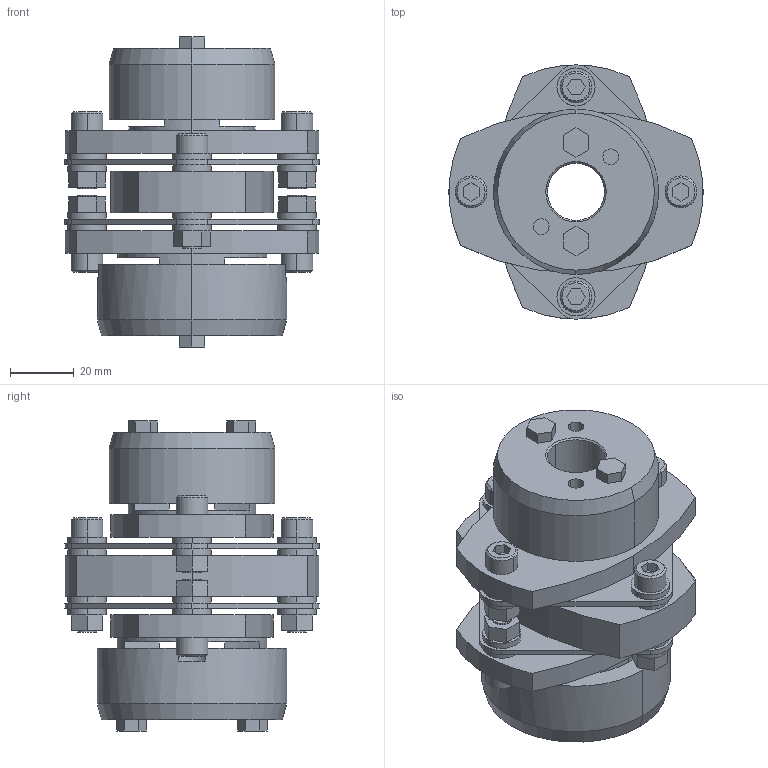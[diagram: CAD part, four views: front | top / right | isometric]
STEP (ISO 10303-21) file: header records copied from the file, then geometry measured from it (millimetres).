
FILE_DESCRIPTION((''),'2;1');
FILE_NAME('LCD-80T7-18×24.stp','2011-09-15T13:15:01',(''),(''),'AutoCAD STEP 2000i','AutoCAD 2000i',', , ');
FILE_SCHEMA(('CONFIG_CONTROL_DESIGN'));
Length unit declared in the file: millimetre
Products named in the file (8): LCD-80T7-17×24; 忣兜1; LC80T7-T024; LC80T7-T022; LC80T7-T019; LC80T7-T017-1; LC80T7-T017; LCD80-ITA
Assembly tree (7 placements, depth 2):
  LCD-80T7-17×24
    忣兜1
    LC80T7-T024
    LC80T7-T022
    LC80T7-T019
    LC80T7-T017-1
    LC80T7-T017
    LCD80-ITA
Bounding box: 80 x 79.95 x 97.5 mm (x, y, z)
Volume: 191429.7 mm3; surface area: 58272.3 mm2
Topology: 1 solids, 1 shells, 310 faces, 756 edges, 496 vertices
Faces by surface type: plane 164, cylinder 122, cone 24
Entity records: 9401 total; most frequent: DIRECTION 1680, CARTESIAN_POINT 1570, ORIENTED_EDGE 1512, EDGE_CURVE 756, AXIS2_PLACEMENT_3D 606, VERTEX_POINT 496, VECTOR 468, LINE 468
